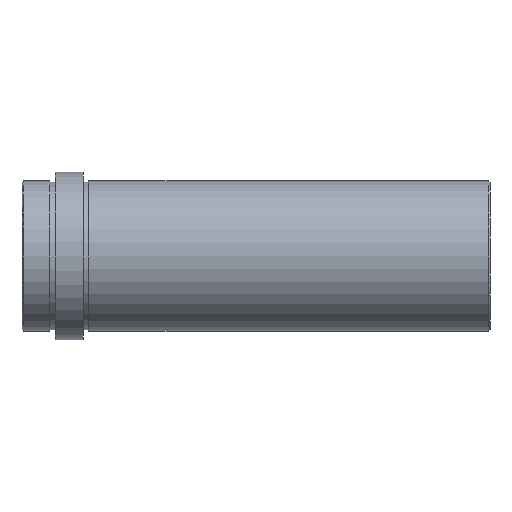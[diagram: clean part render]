
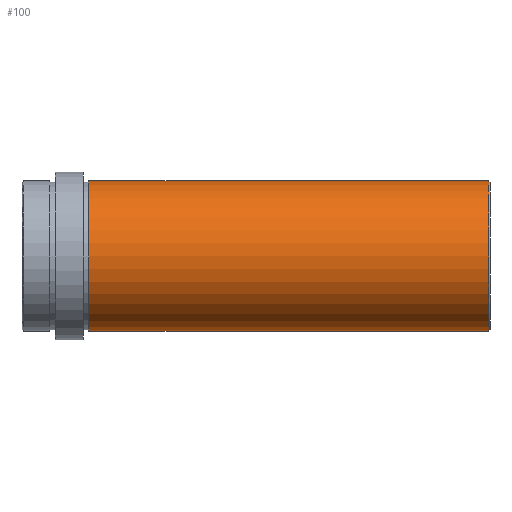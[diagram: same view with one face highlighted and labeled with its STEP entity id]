
A CAD part, front view. The second image highlights one B-rep face of the part: STEP entity #100.
In plain terms, the highlighted face is a revolution surface.
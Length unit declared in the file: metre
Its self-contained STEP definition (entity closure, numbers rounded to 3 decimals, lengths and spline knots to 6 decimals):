
#100 = ADVANCED_FACE( '', ( #157 ), #158, .F. );
#157 = FACE_OUTER_BOUND( '', #250, .T. );
#158 = SURFACE_OF_REVOLUTION( '', #251, #252 );
#250 = EDGE_LOOP( '', ( #419, #420, #421, #422 ) );
#251 = B_SPLINE_CURVE_WITH_KNOTS( '', 1, ( #423, #424 ), .UNSPECIFIED., .F., .F., ( 2, 2 ), ( -10000., 10000. ), .UNSPECIFIED. );
#252 = AXIS1_PLACEMENT( '', #425, #426 );
#419 = ORIENTED_EDGE( '', *, *, #492, .T. );
#420 = ORIENTED_EDGE( '', *, *, #490, .T. );
#421 = ORIENTED_EDGE( '', *, *, #445, .F. );
#422 = ORIENTED_EDGE( '', *, *, #489, .T. );
#423 = CARTESIAN_POINT( '', ( 10000.1675, 0., 0.027 ) );
#424 = CARTESIAN_POINT( '', ( -9999.8325, 0., 0.027 ) );
#425 = CARTESIAN_POINT( '', ( 0., 0., 0. ) );
#426 = DIRECTION( '', ( 1., 0., 0. ) );
#445 = EDGE_CURVE( '', #499, #500, #501, .T. );
#489 = EDGE_CURVE( '', #499, #571, #572, .F. );
#490 = EDGE_CURVE( '', #573, #500, #574, .T. );
#492 = EDGE_CURVE( '', #571, #573, #576, .T. );
#499 = VERTEX_POINT( '', #583 );
#500 = VERTEX_POINT( '', #584 );
#501 = CIRCLE( '', #585, 0.027 );
#571 = VERTEX_POINT( '', #671 );
#572 = LINE( '', #672, #673 );
#573 = VERTEX_POINT( '', #674 );
#574 = LINE( '', #675, #676 );
#576 = CIRCLE( '', #678, 0.027 );
#583 = CARTESIAN_POINT( '', ( 0.024, 0., -0.027 ) );
#584 = CARTESIAN_POINT( '', ( 0.024, 0., 0.027 ) );
#585 = AXIS2_PLACEMENT_3D( '', #689, #690, #691 );
#671 = CARTESIAN_POINT( '', ( 0.1675, 0., -0.027 ) );
#672 = CARTESIAN_POINT( '', ( 0.1675, 0., -0.027 ) );
#673 = VECTOR( '', #789, 1. );
#674 = CARTESIAN_POINT( '', ( 0.1675, 0., 0.027 ) );
#675 = CARTESIAN_POINT( '', ( 0.1675, 0., 0.027 ) );
#676 = VECTOR( '', #790, 1. );
#678 = AXIS2_PLACEMENT_3D( '', #794, #795, #796 );
#689 = CARTESIAN_POINT( '', ( 0.024, 0., 0. ) );
#690 = DIRECTION( '', ( -1., 0., 0. ) );
#691 = DIRECTION( '', ( 0., 0., 1. ) );
#789 = DIRECTION( '', ( -1., 0., 0. ) );
#790 = DIRECTION( '', ( -1., 0., 0. ) );
#794 = CARTESIAN_POINT( '', ( 0.1675, 0., 0. ) );
#795 = DIRECTION( '', ( -1., 0., 0. ) );
#796 = DIRECTION( '', ( 0., 0., 1. ) );
